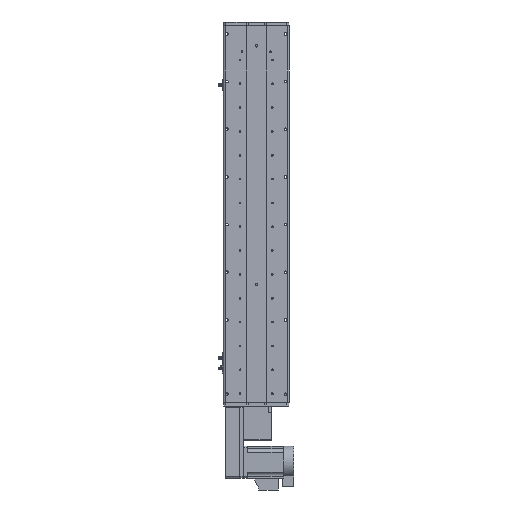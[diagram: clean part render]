
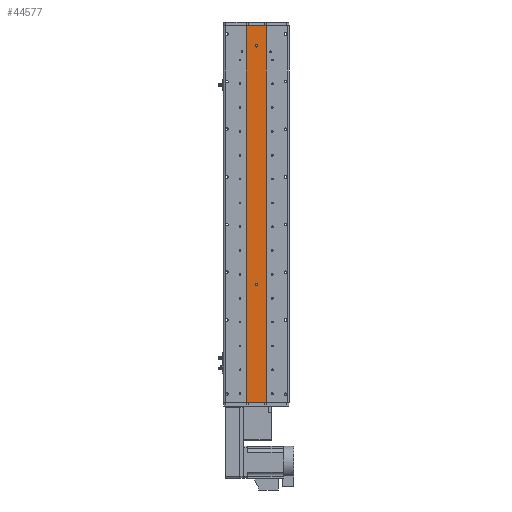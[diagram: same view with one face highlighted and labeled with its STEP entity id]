
A CAD part, front view. The second image highlights one B-rep face of the part: STEP entity #44577.
In plain terms, the highlighted planar face has unit normal (0, -1, 0).
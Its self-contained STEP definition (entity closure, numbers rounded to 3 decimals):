
#2020 = CARTESIAN_POINT ( 'NONE',  ( 0., 1., 420.5 ) ) ;
#3572 = CARTESIAN_POINT ( 'NONE',  ( 0., 1., 423.5 ) ) ;
#4842 = VECTOR ( 'NONE', #43012, 1000. ) ;
#5098 = EDGE_CURVE ( 'NONE', #46991, #57911, #44002, .T. ) ;
#6152 = VECTOR ( 'NONE', #38422, 1000. ) ;
#6400 = LINE ( 'NONE', #13749, #4842 ) ;
#7248 = AXIS2_PLACEMENT_3D ( 'NONE', #28076, #62341, #33005 ) ;
#7741 = AXIS2_PLACEMENT_3D ( 'NONE', #56306, #27040, #61281 ) ;
#8090 = LINE ( 'NONE', #51287, #34042 ) ;
#8475 = DIRECTION ( 'NONE',  ( 0., 0., -1. ) ) ;
#8865 = EDGE_LOOP ( 'NONE', ( #13731, #59756 ) ) ;
#11083 = FACE_OUTER_BOUND ( 'NONE', #42615, .T. ) ;
#12024 = DIRECTION ( 'NONE',  ( 0., -1., 0. ) ) ;
#12872 = EDGE_CURVE ( 'NONE', #57911, #46991, #48949, .T. ) ;
#13731 = ORIENTED_EDGE ( 'NONE', *, *, #12872, .F. ) ;
#13749 = CARTESIAN_POINT ( 'NONE',  ( 25., 1., 473.5 ) ) ;
#14064 = CARTESIAN_POINT ( 'NONE',  ( -25., 1., 473.5 ) ) ;
#14316 = VERTEX_POINT ( 'NONE', #2020 ) ;
#15917 = ORIENTED_EDGE ( 'NONE', *, *, #29897, .F. ) ;
#16734 = AXIS2_PLACEMENT_3D ( 'NONE', #3572, #37723, #8475 ) ;
#17634 = CIRCLE ( 'NONE', #16734, 3. ) ;
#20127 = CARTESIAN_POINT ( 'NONE',  ( 25., 1., -473.5 ) ) ;
#20325 = CARTESIAN_POINT ( 'NONE',  ( 0., 1., -173.5 ) ) ;
#21838 = DIRECTION ( 'NONE',  ( 0., 0., 1. ) ) ;
#22522 = CARTESIAN_POINT ( 'NONE',  ( 0., 1., 426.5 ) ) ;
#25058 = DIRECTION ( 'NONE',  ( 1., 0., 0. ) ) ;
#25599 = FACE_BOUND ( 'NONE', #46030, .T. ) ;
#27040 = DIRECTION ( 'NONE',  ( 0., -1., 0. ) ) ;
#27303 = CARTESIAN_POINT ( 'NONE',  ( 25., 1., -473.5 ) ) ;
#28076 = CARTESIAN_POINT ( 'NONE',  ( 0., 1., -176.5 ) ) ;
#29140 = EDGE_CURVE ( 'NONE', #35891, #55563, #41437, .T. ) ;
#29897 = EDGE_CURVE ( 'NONE', #49577, #31682, #59692, .T. ) ;
#31139 = ORIENTED_EDGE ( 'NONE', *, *, #57954, .F. ) ;
#31240 = AXIS2_PLACEMENT_3D ( 'NONE', #41251, #12024, #46192 ) ;
#31682 = VERTEX_POINT ( 'NONE', #49727 ) ;
#31958 = EDGE_CURVE ( 'NONE', #14316, #41964, #17634, .T. ) ;
#32999 = CARTESIAN_POINT ( 'NONE',  ( 0., 1., -179.5 ) ) ;
#33005 = DIRECTION ( 'NONE',  ( 0., 0., -1. ) ) ;
#33506 = CARTESIAN_POINT ( 'NONE',  ( 25., 1., 473.5 ) ) ;
#33928 = AXIS2_PLACEMENT_3D ( 'NONE', #46219, #51136, #21838 ) ;
#34042 = VECTOR ( 'NONE', #60949, 1000. ) ;
#35891 = VERTEX_POINT ( 'NONE', #44997 ) ;
#37637 = ORIENTED_EDGE ( 'NONE', *, *, #43566, .T. ) ;
#37693 = ORIENTED_EDGE ( 'NONE', *, *, #54913, .F. ) ;
#37723 = DIRECTION ( 'NONE',  ( 0., -1., 0. ) ) ;
#38422 = DIRECTION ( 'NONE',  ( 1., 0., 0. ) ) ;
#41251 = CARTESIAN_POINT ( 'NONE',  ( 0., 1., 423.5 ) ) ;
#41279 = PLANE ( 'NONE',  #33928 ) ;
#41437 = LINE ( 'NONE', #20127, #52906 ) ;
#41964 = VERTEX_POINT ( 'NONE', #22522 ) ;
#42615 = EDGE_LOOP ( 'NONE', ( #60144, #31139, #15917, #37637 ) ) ;
#43012 = DIRECTION ( 'NONE',  ( 0., 0., -1. ) ) ;
#43566 = EDGE_CURVE ( 'NONE', #49577, #35891, #8090, .T. ) ;
#44002 = CIRCLE ( 'NONE', #7741, 3. ) ;
#44577 = ADVANCED_FACE ( 'NONE', ( #25599, #48479, #11083 ), #41279, .F. ) ;
#44997 = CARTESIAN_POINT ( 'NONE',  ( -25., 1., -473.5 ) ) ;
#46030 = EDGE_LOOP ( 'NONE', ( #54356, #37693 ) ) ;
#46192 = DIRECTION ( 'NONE',  ( 0., 0., -1. ) ) ;
#46219 = CARTESIAN_POINT ( 'NONE',  ( 25., 1., 473.5 ) ) ;
#46991 = VERTEX_POINT ( 'NONE', #20325 ) ;
#48479 = FACE_BOUND ( 'NONE', #8865, .T. ) ;
#48949 = CIRCLE ( 'NONE', #7248, 3. ) ;
#49577 = VERTEX_POINT ( 'NONE', #14064 ) ;
#49727 = CARTESIAN_POINT ( 'NONE',  ( 25., 1., 473.5 ) ) ;
#51136 = DIRECTION ( 'NONE',  ( 0., 1., 0. ) ) ;
#51287 = CARTESIAN_POINT ( 'NONE',  ( -25., 1., 473.5 ) ) ;
#52906 = VECTOR ( 'NONE', #25058, 1000. ) ;
#54356 = ORIENTED_EDGE ( 'NONE', *, *, #31958, .F. ) ;
#54913 = EDGE_CURVE ( 'NONE', #41964, #14316, #61026, .T. ) ;
#55563 = VERTEX_POINT ( 'NONE', #27303 ) ;
#56306 = CARTESIAN_POINT ( 'NONE',  ( 0., 1., -176.5 ) ) ;
#57911 = VERTEX_POINT ( 'NONE', #32999 ) ;
#57954 = EDGE_CURVE ( 'NONE', #31682, #55563, #6400, .T. ) ;
#59692 = LINE ( 'NONE', #33506, #6152 ) ;
#59756 = ORIENTED_EDGE ( 'NONE', *, *, #5098, .F. ) ;
#60144 = ORIENTED_EDGE ( 'NONE', *, *, #29140, .T. ) ;
#60949 = DIRECTION ( 'NONE',  ( 0., 0., -1. ) ) ;
#61026 = CIRCLE ( 'NONE', #31240, 3. ) ;
#61281 = DIRECTION ( 'NONE',  ( 0., 0., -1. ) ) ;
#62341 = DIRECTION ( 'NONE',  ( 0., -1., 0. ) ) ;
